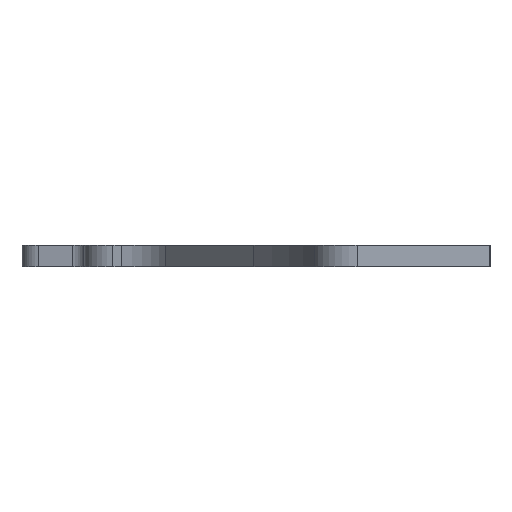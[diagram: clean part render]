
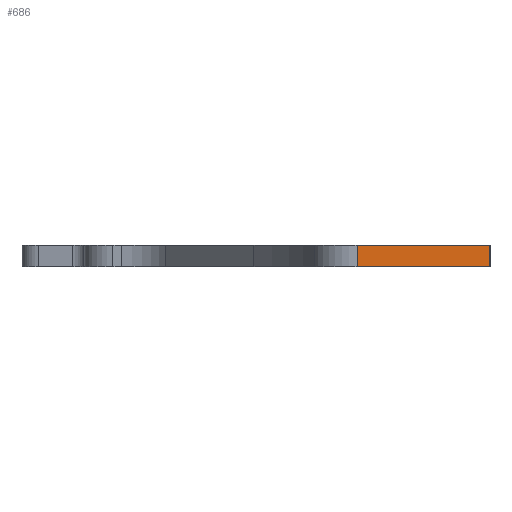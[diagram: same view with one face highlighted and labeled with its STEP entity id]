
A CAD part, front view. The second image highlights one B-rep face of the part: STEP entity #686.
In plain terms, the highlighted planar face has unit normal (0, -1, 0).
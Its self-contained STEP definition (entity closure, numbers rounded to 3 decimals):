
#43=PLANE('',#761);
#72=FACE_OUTER_BOUND('',#107,.T.);
#107=EDGE_LOOP('',(#534,#535,#536,#537));
#168=LINE('',#1130,#227);
#169=LINE('',#1133,#228);
#170=LINE('',#1135,#229);
#171=LINE('',#1136,#230);
#227=VECTOR('',#917,10.);
#228=VECTOR('',#920,10.);
#229=VECTOR('',#921,10.);
#230=VECTOR('',#922,10.);
#327=VERTEX_POINT('',#1126);
#328=VERTEX_POINT('',#1128);
#329=VERTEX_POINT('',#1132);
#330=VERTEX_POINT('',#1134);
#414=EDGE_CURVE('',#327,#328,#168,.T.);
#415=EDGE_CURVE('',#329,#327,#169,.T.);
#416=EDGE_CURVE('',#330,#328,#170,.T.);
#417=EDGE_CURVE('',#329,#330,#171,.T.);
#534=ORIENTED_EDGE('',*,*,#415,.T.);
#535=ORIENTED_EDGE('',*,*,#414,.T.);
#536=ORIENTED_EDGE('',*,*,#416,.F.);
#537=ORIENTED_EDGE('',*,*,#417,.F.);
#686=ADVANCED_FACE('',(#72),#43,.T.);
#761=AXIS2_PLACEMENT_3D('',#1131,#918,#919);
#917=DIRECTION('',(0.,0.,1.));
#918=DIRECTION('center_axis',(0.,-1.,0.));
#919=DIRECTION('ref_axis',(1.,0.,0.));
#920=DIRECTION('',(1.,0.,0.));
#921=DIRECTION('',(1.,0.,0.));
#922=DIRECTION('',(0.,0.,1.));
#1126=CARTESIAN_POINT('',(15.75,-5.5,0.));
#1128=CARTESIAN_POINT('',(15.75,-5.5,2.5));
#1130=CARTESIAN_POINT('',(15.75,-5.5,0.));
#1131=CARTESIAN_POINT('Origin',(0.,-5.5,
0.));
#1132=CARTESIAN_POINT('',(0.,-5.5,0.));
#1133=CARTESIAN_POINT('',(0.,-5.5,0.));
#1134=CARTESIAN_POINT('',(0.,-5.5,2.5));
#1135=CARTESIAN_POINT('',(0.,-5.5,2.5));
#1136=CARTESIAN_POINT('',(0.,-5.5,0.));
